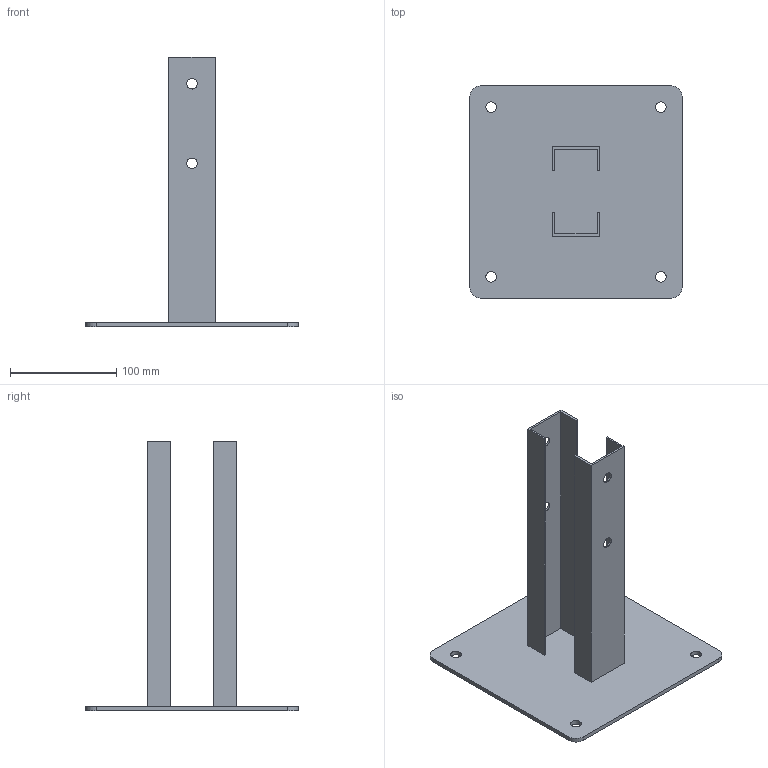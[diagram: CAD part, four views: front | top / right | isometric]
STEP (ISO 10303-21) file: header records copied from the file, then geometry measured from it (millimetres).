
FILE_DESCRIPTION((''),'2;1');
FILE_NAME('X:\Ritarkiv\STEP-Carryline Standarddelar\100-1150.stp','2009-11-09T08:00:05',('marcus'),(''),'Autodesk Inventor 2010','Autodesk Inventor 2010','');
FILE_SCHEMA(('AUTOMOTIVE_DESIGN { 1 0 10303 214 1 1 1 1 }'));
Length unit declared in the file: millimetre
Products named in the file (1): 100-1150
Bounding box: 200 x 200 x 254 mm (x, y, z)
Volume: 241772.1 mm3; surface area: 168456.8 mm2
Topology: 1 solids, 1 shells, 36 faces, 102 edges, 70 vertices
Faces by surface type: plane 24, bspline 8, cylinder 4
Entity records: 1246 total; most frequent: CARTESIAN_POINT 325, ORIENTED_EDGE 176, DIRECTION 170, EDGE_CURVE 88, VERTEX_POINT 64, VECTOR 64, LINE 64, EDGE_LOOP 62
